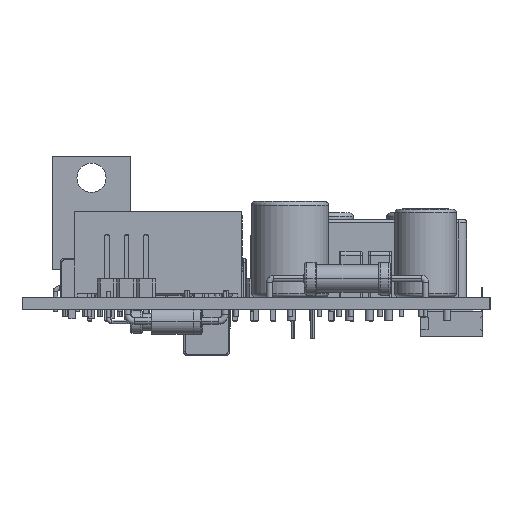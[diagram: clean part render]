
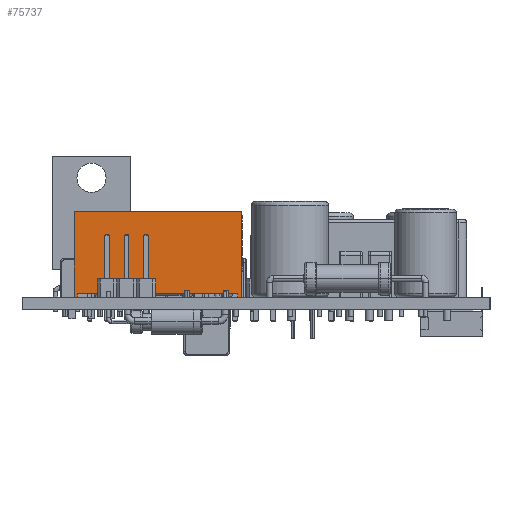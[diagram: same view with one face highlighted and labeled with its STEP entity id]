
A CAD part, left-side view. The second image highlights one B-rep face of the part: STEP entity #75737.
In plain terms, the highlighted planar face has unit normal (-1, 0, 0).
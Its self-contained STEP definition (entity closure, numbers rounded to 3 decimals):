
#75737 = ADVANCED_FACE('',(#75738),#75804,.F.);
#75738 = FACE_BOUND('',#75739,.T.);
#75739 = EDGE_LOOP('',(#75740,#75750,#75758,#75766,#75774,#75782,#75790,
    #75798));
#75740 = ORIENTED_EDGE('',*,*,#75741,.F.);
#75741 = EDGE_CURVE('',#75742,#75744,#75746,.T.);
#75742 = VERTEX_POINT('',#75743);
#75743 = CARTESIAN_POINT('',(21.425,32.907,
    0.5));
#75744 = VERTEX_POINT('',#75745);
#75745 = CARTESIAN_POINT('',(21.425,53.707,
    0.5));
#75746 = LINE('',#75747,#75748);
#75747 = CARTESIAN_POINT('',(21.425,32.907,
    0.5));
#75748 = VECTOR('',#75749,1.);
#75749 = DIRECTION('',(0.,1.,0.));
#75750 = ORIENTED_EDGE('',*,*,#75751,.T.);
#75751 = EDGE_CURVE('',#75742,#75752,#75754,.T.);
#75752 = VERTEX_POINT('',#75753);
#75753 = CARTESIAN_POINT('',(21.425,32.907,
    0.));
#75754 = LINE('',#75755,#75756);
#75755 = CARTESIAN_POINT('',(21.425,32.907,
    0.5));
#75756 = VECTOR('',#75757,1.);
#75757 = DIRECTION('',(0.,0.,-1.));
#75758 = ORIENTED_EDGE('',*,*,#75759,.T.);
#75759 = EDGE_CURVE('',#75752,#75760,#75762,.T.);
#75760 = VERTEX_POINT('',#75761);
#75761 = CARTESIAN_POINT('',(21.425,32.407,
    0.));
#75762 = LINE('',#75763,#75764);
#75763 = CARTESIAN_POINT('',(21.425,32.407,
    0.));
#75764 = VECTOR('',#75765,1.);
#75765 = DIRECTION('',(0.,-1.,0.));
#75766 = ORIENTED_EDGE('',*,*,#75767,.F.);
#75767 = EDGE_CURVE('',#75768,#75760,#75770,.T.);
#75768 = VERTEX_POINT('',#75769);
#75769 = CARTESIAN_POINT('',(21.425,32.407,
    11.2));
#75770 = LINE('',#75771,#75772);
#75771 = CARTESIAN_POINT('',(21.425,32.407,
    11.2));
#75772 = VECTOR('',#75773,1.);
#75773 = DIRECTION('',(0.,0.,-1.));
#75774 = ORIENTED_EDGE('',*,*,#75775,.F.);
#75775 = EDGE_CURVE('',#75776,#75768,#75778,.T.);
#75776 = VERTEX_POINT('',#75777);
#75777 = CARTESIAN_POINT('',(21.425,54.207,
    11.2));
#75778 = LINE('',#75779,#75780);
#75779 = CARTESIAN_POINT('',(21.425,32.407,
    11.2));
#75780 = VECTOR('',#75781,1.);
#75781 = DIRECTION('',(0.,-1.,0.));
#75782 = ORIENTED_EDGE('',*,*,#75783,.T.);
#75783 = EDGE_CURVE('',#75776,#75784,#75786,.T.);
#75784 = VERTEX_POINT('',#75785);
#75785 = CARTESIAN_POINT('',(21.425,54.207,
    0.));
#75786 = LINE('',#75787,#75788);
#75787 = CARTESIAN_POINT('',(21.425,54.207,
    11.2));
#75788 = VECTOR('',#75789,1.);
#75789 = DIRECTION('',(0.,0.,-1.));
#75790 = ORIENTED_EDGE('',*,*,#75791,.T.);
#75791 = EDGE_CURVE('',#75784,#75792,#75794,.T.);
#75792 = VERTEX_POINT('',#75793);
#75793 = CARTESIAN_POINT('',(21.425,53.707,
    0.));
#75794 = LINE('',#75795,#75796);
#75795 = CARTESIAN_POINT('',(21.425,32.407,
    0.));
#75796 = VECTOR('',#75797,1.);
#75797 = DIRECTION('',(0.,-1.,0.));
#75798 = ORIENTED_EDGE('',*,*,#75799,.F.);
#75799 = EDGE_CURVE('',#75744,#75792,#75800,.T.);
#75800 = LINE('',#75801,#75802);
#75801 = CARTESIAN_POINT('',(21.425,53.707,
    0.5));
#75802 = VECTOR('',#75803,1.);
#75803 = DIRECTION('',(0.,0.,-1.));
#75804 = PLANE('',#75805);
#75805 = AXIS2_PLACEMENT_3D('',#75806,#75807,#75808);
#75806 = CARTESIAN_POINT('',(21.425,32.407,
    11.2));
#75807 = DIRECTION('',(1.,0.,0.));
#75808 = DIRECTION('',(0.,1.,0.));
